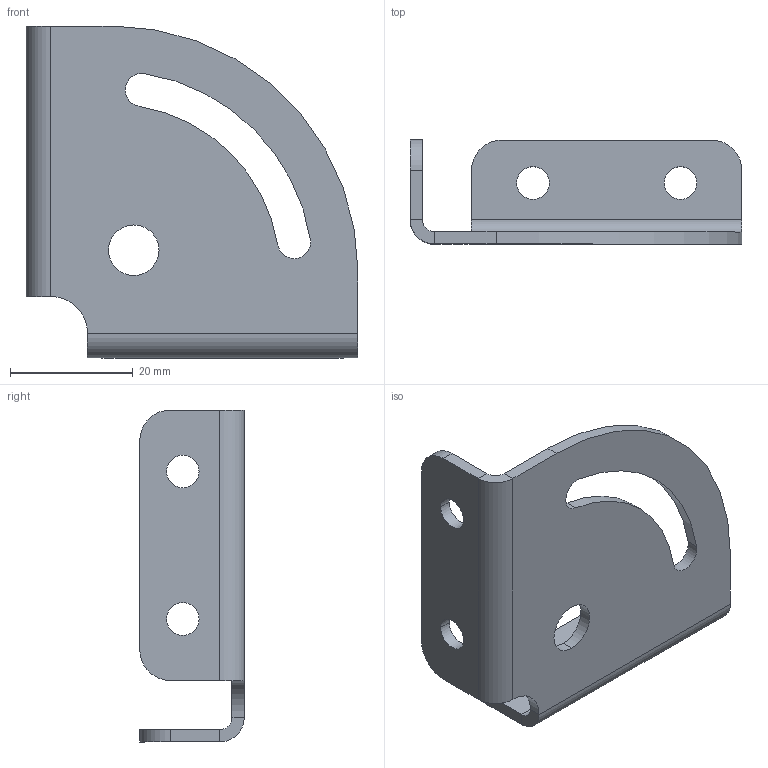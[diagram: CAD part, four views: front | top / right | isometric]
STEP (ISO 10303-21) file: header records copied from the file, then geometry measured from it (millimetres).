
FILE_DESCRIPTION (( 'STEP AP214' ), '1' );
FILE_NAME ('A20Ì8.STEP', '2015-10-16T09:45:57', ( '' ), ( '' ), 'SwSTEP 2.0', 'SolidWorks 2014', '' );
FILE_SCHEMA (( 'AUTOMOTIVE_DESIGN' ));
Length unit declared in the file: millimetre
Products named in the file (1): A20ﾌ8
Bounding box: 54 x 17 x 54 mm (x, y, z)
Volume: 6599.7 mm3; surface area: 7452.9 mm2
Topology: 1 solids, 1 shells, 43 faces, 107 edges, 66 vertices
Faces by surface type: cylinder 25, plane 18
Entity records: 1341 total; most frequent: DIRECTION 245, CARTESIAN_POINT 217, ORIENTED_EDGE 214, EDGE_CURVE 107, AXIS2_PLACEMENT_3D 94, VERTEX_POINT 66, LINE 57, VECTOR 57
